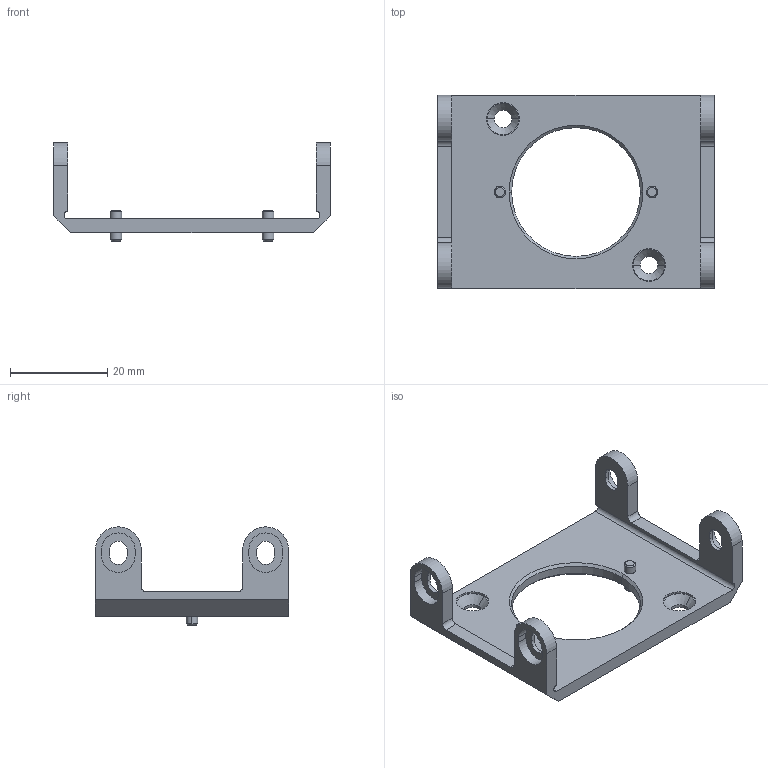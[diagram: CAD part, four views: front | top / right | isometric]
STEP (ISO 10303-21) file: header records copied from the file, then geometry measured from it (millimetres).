
FILE_DESCRIPTION((''),'2;1');
FILE_NAME('C4W-CC_ASM','2021-04-13T',('Administrator'),(''),'CREO PARAMETRIC BY PTC INC, 2015290','CREO PARAMETRIC BY PTC INC, 2015290','');
FILE_SCHEMA(('CONFIG_CONTROL_DESIGN'));
Length unit declared in the file: millimetre
Products named in the file (3): DOWEL0937X250-2-SOLID1; 22933-001-1-SOLID1; C4W-CC_ASM
Assembly tree (3 placements, depth 2):
  C4W-CC_ASM
    DOWEL0937X250-2-SOLID1  x2
    22933-001-1-SOLID1
Bounding box: 56.72 x 39.62 x 20.19 mm (x, y, z)
Volume: 5535.2 mm3; surface area: 5861.5 mm2
Topology: 3 solids, 3 shells, 110 faces, 292 edges, 194 vertices
Faces by surface type: cylinder 52, plane 42, cone 16
Entity records: 3416 total; most frequent: DIRECTION 620, CARTESIAN_POINT 572, ORIENTED_EDGE 556, EDGE_CURVE 278, AXIS2_PLACEMENT_3D 234, VERTEX_POINT 186, VECTOR 152, LINE 152
